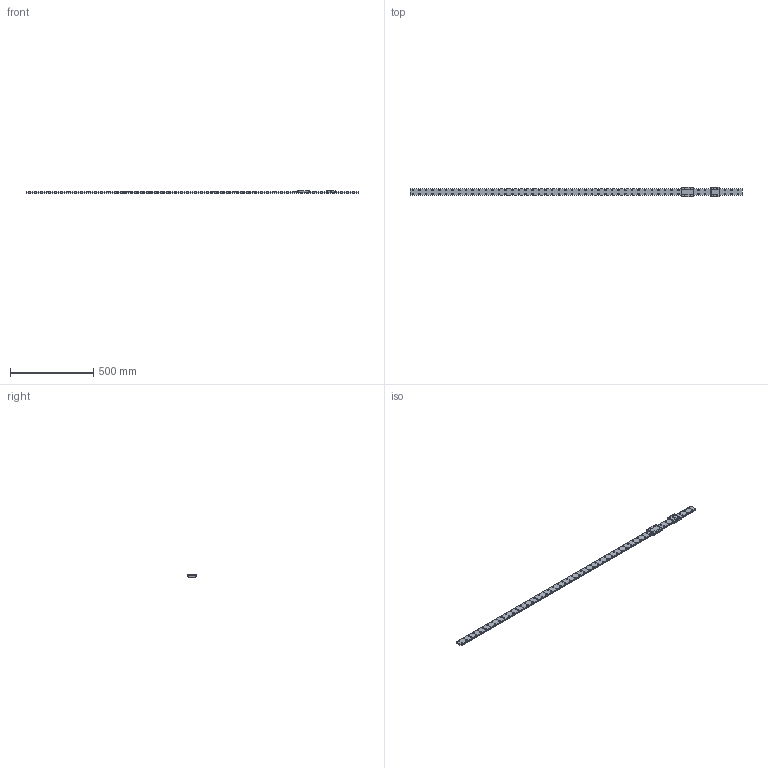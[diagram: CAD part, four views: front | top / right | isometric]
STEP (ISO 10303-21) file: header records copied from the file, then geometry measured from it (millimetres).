
FILE_DESCRIPTION((''),'2;1');
FILE_NAME('ASM0029_ASM','2021-04-13T10:03:31',('TWVS2025'),(''),'CREO PARAMETRIC BY PTC INC, 2018420','CREO PARAMETRIC BY PTC INC, 2018420','');
FILE_SCHEMA(('CONFIG_CONTROL_DESIGN'));
Products named in the file (4): BMWR15-2000; BMWC15-U0-00S; BMWC-15LU-00S; ASM0029_ASM
Assembly tree (3 placements, depth 2):
  ASM0029_ASM
    BMWR15-2000
    BMWC15-U0-00S
    BMWC-15LU-00S
Bounding box: 2000 x 60 x 16 mm (x, y, z)
Volume: 788616.7 mm3; surface area: 269193.4 mm2
Topology: 9 solids, 52 shells, 2866 faces, 7850 edges, 5107 vertices
Faces by surface type: cylinder 1234, plane 992, cone 376, torus 184, bspline 56, sphere 24
Entity records: 94599 total; most frequent: CARTESIAN_POINT 19348, DIRECTION 16660, ORIENTED_EDGE 15188, EDGE_CURVE 7770, AXIS2_PLACEMENT_3D 6419, VERTEX_POINT 5107, VECTOR 3822, LINE 3822
